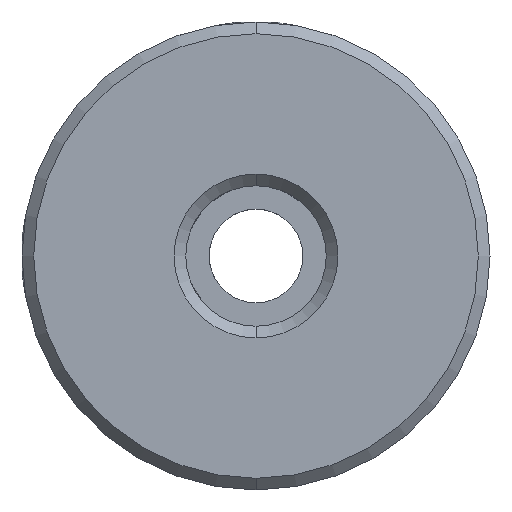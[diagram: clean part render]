
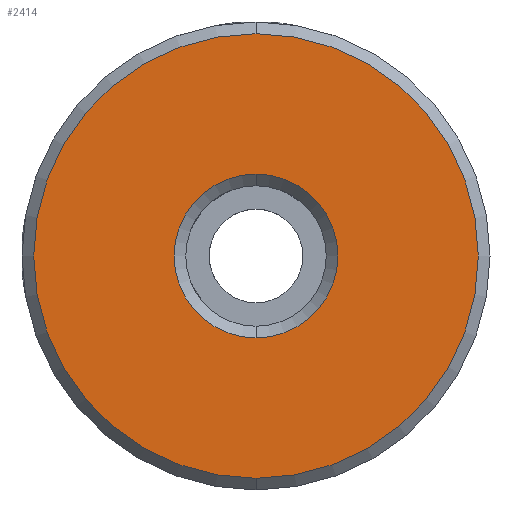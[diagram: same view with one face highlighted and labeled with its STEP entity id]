
A CAD part, front view. The second image highlights one B-rep face of the part: STEP entity #2414.
In plain terms, the highlighted planar face has unit normal (0, -1, 0).
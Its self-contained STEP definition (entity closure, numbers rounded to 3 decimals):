
#162 = ORIENTED_EDGE ( 'NONE', *, *, #2641, .T. ) ;
#230 = DIRECTION ( 'NONE',  ( 0., 0., 1. ) ) ;
#364 = VERTEX_POINT ( 'NONE', #1952 ) ;
#384 = DIRECTION ( 'NONE',  ( 0., 0., 1. ) ) ;
#444 = VERTEX_POINT ( 'NONE', #2610 ) ;
#490 = AXIS2_PLACEMENT_3D ( 'NONE', #3034, #1313, #3577 ) ;
#556 = CIRCLE ( 'NONE', #1667, 9.5 ) ;
#627 = ORIENTED_EDGE ( 'NONE', *, *, #3097, .T. ) ;
#694 = CARTESIAN_POINT ( 'NONE',  ( -10.188, -0.277, 0.046 ) ) ;
#729 = CIRCLE ( 'NONE', #2842, 3.5 ) ;
#740 = CARTESIAN_POINT ( 'NONE',  ( -10.188, -0.277, 0.046 ) ) ;
#756 = CARTESIAN_POINT ( 'NONE',  ( -10.188, -0.277, 0.046 ) ) ;
#977 = VERTEX_POINT ( 'NONE', #2612 ) ;
#1088 = DIRECTION ( 'NONE',  ( 0., -1., 0. ) ) ;
#1313 = DIRECTION ( 'NONE',  ( 0., 1., 0. ) ) ;
#1546 = CIRCLE ( 'NONE', #2787, 3.5 ) ;
#1593 = EDGE_LOOP ( 'NONE', ( #3161, #3510 ) ) ;
#1667 = AXIS2_PLACEMENT_3D ( 'NONE', #756, #1088, #230 ) ;
#1785 = DIRECTION ( 'NONE',  ( 0., 1., 0. ) ) ;
#1823 = CARTESIAN_POINT ( 'NONE',  ( -10.188, -0.277, 0.046 ) ) ;
#1952 = CARTESIAN_POINT ( 'NONE',  ( -10.188, -0.277, -9.454 ) ) ;
#2062 = DIRECTION ( 'NONE',  ( 0., 1., 0. ) ) ;
#2066 = DIRECTION ( 'NONE',  ( 0., -1., 0. ) ) ;
#2180 = PLANE ( 'NONE',  #490 ) ;
#2241 = CARTESIAN_POINT ( 'NONE',  ( -10.188, -0.277, -3.454 ) ) ;
#2357 = EDGE_CURVE ( 'NONE', #977, #364, #3022, .T. ) ;
#2414 = ADVANCED_FACE ( 'NONE', ( #3011, #3608 ), #2180, .F. ) ;
#2546 = AXIS2_PLACEMENT_3D ( 'NONE', #694, #2066, #3182 ) ;
#2610 = CARTESIAN_POINT ( 'NONE',  ( -10.188, -0.277, 3.546 ) ) ;
#2612 = CARTESIAN_POINT ( 'NONE',  ( -10.188, -0.277, 9.546 ) ) ;
#2641 = EDGE_CURVE ( 'NONE', #3421, #444, #729, .T. ) ;
#2787 = AXIS2_PLACEMENT_3D ( 'NONE', #740, #2062, #384 ) ;
#2842 = AXIS2_PLACEMENT_3D ( 'NONE', #1823, #1785, #2956 ) ;
#2956 = DIRECTION ( 'NONE',  ( 0., 0., 1. ) ) ;
#3011 = FACE_OUTER_BOUND ( 'NONE', #1593, .T. ) ;
#3022 = CIRCLE ( 'NONE', #2546, 9.5 ) ;
#3034 = CARTESIAN_POINT ( 'NONE',  ( -10.188, -0.277, 0.046 ) ) ;
#3097 = EDGE_CURVE ( 'NONE', #444, #3421, #1546, .T. ) ;
#3161 = ORIENTED_EDGE ( 'NONE', *, *, #2357, .T. ) ;
#3182 = DIRECTION ( 'NONE',  ( 0., 0., 1. ) ) ;
#3229 = EDGE_LOOP ( 'NONE', ( #162, #627 ) ) ;
#3259 = EDGE_CURVE ( 'NONE', #364, #977, #556, .T. ) ;
#3421 = VERTEX_POINT ( 'NONE', #2241 ) ;
#3510 = ORIENTED_EDGE ( 'NONE', *, *, #3259, .T. ) ;
#3577 = DIRECTION ( 'NONE',  ( 0., 0., 1. ) ) ;
#3608 = FACE_BOUND ( 'NONE', #3229, .T. ) ;
